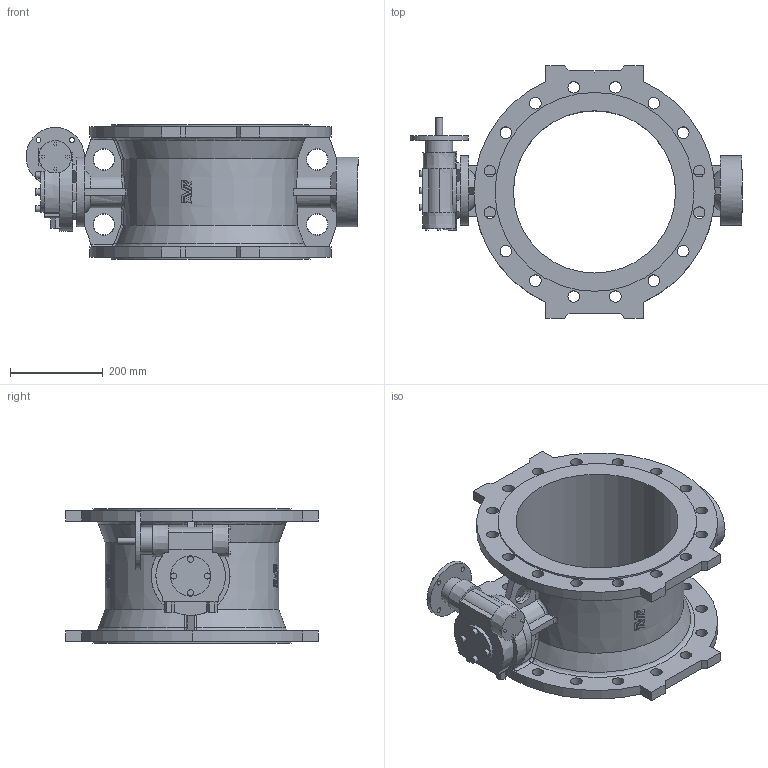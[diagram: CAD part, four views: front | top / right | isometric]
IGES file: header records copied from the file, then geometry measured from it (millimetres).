
Start section: SolidWorks IGES file using analytic representation for surfaces
Global section: file name: \\avksan2\techshare\PBM outline export from Enovia\O_756_102_DN350_0XX_AA0_igs.igs; native system: SolidWorks 2012; preprocessor: SolidWorks 2012; author: pbm; date: 160309.115127; units: millimetre
Bounding box: 716 x 544 x 290 mm (x, y, z)
Surface area: 1430217 mm2 (no closed solid volume)
Topology: 0 solids, 0 shells, 436 faces, 3354 edges, 3248 vertices
Faces by surface type: bspline 310, revolution 126
